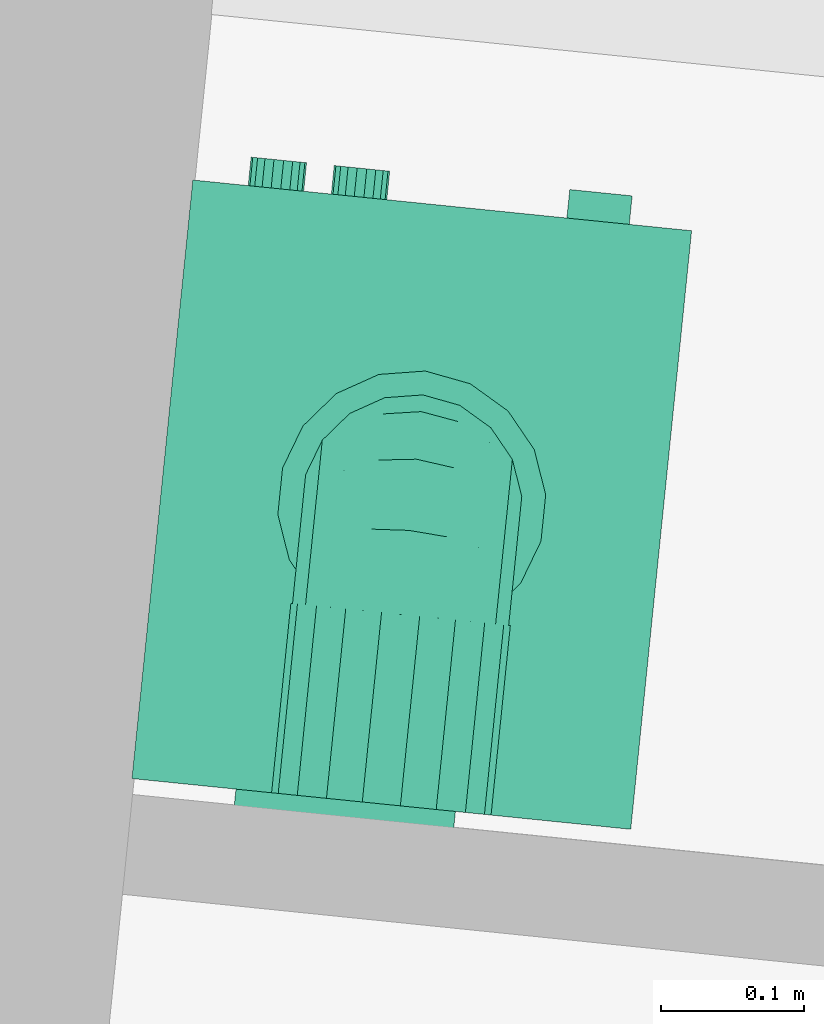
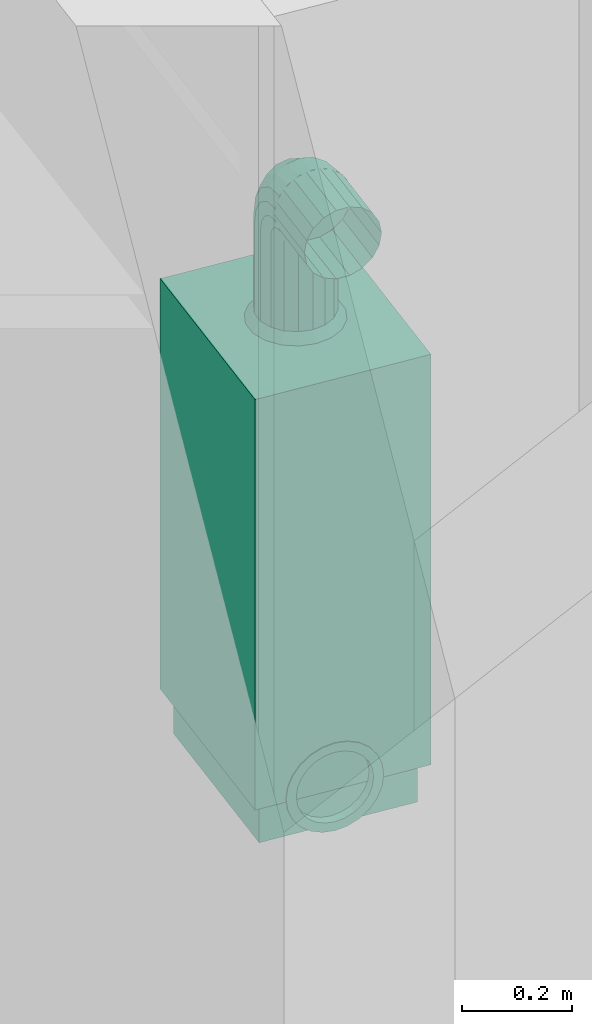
# One storey, part 114 of 164: 1 distribution element.
"""IFC2X3 building model written with IfcOpenShell, lengths in millimetres."""

from ifc_helpers import new_model, entity, si_unit, converted_unit, derived_unit, money_unit, direction, frame, origin_with_axes, place, context, subcontext, project, spatial, open_shell, faceted_brep, surface_model, source, transform, mapped, type_object, element, save


model = new_model("IFC2X3")

# Units and contexts
model_context = context("Model", 3, precision=0.01, world=origin_with_axes(), true_north=direction((0.0, 1.0)))
body_context = subcontext(model_context, "Body", "Model", "MODEL_VIEW")
ifc_project = project(units=[si_unit("LENGTHUNIT", "METRE", prefix="MILLI"), si_unit("AREAUNIT", "SQUARE_METRE"), si_unit("VOLUMEUNIT", "CUBIC_METRE"), converted_unit("PLANEANGLEUNIT", "DEGREE", entity("IfcPlaneAngleMeasure", 0.0174532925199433), si_unit("PLANEANGLEUNIT", "RADIAN"), dimensions=[0, 0, 0, 0, 0, 0, 0]), money_unit("USD"), converted_unit("TIMEUNIT", "Year", entity("IfcTimeMeasure", 31557600.0), si_unit("TIMEUNIT", "SECOND"), dimensions=[0, 0, 1, 0, 0, 0, 0]), si_unit("MASSUNIT", "GRAM", prefix="KILO"), si_unit("THERMODYNAMICTEMPERATUREUNIT", "DEGREE_CELSIUS"), si_unit("LUMINOUSINTENSITYUNIT", "LUMEN"), si_unit("ENERGYUNIT", "JOULE", prefix="MEGA"), derived_unit("THERMALCONDUCTANCEUNIT", [(si_unit("POWERUNIT", "WATT"), 1), (si_unit("LENGTHUNIT", "METRE"), -1), (si_unit("THERMODYNAMICTEMPERATUREUNIT", "KELVIN"), -1)]), derived_unit("SPECIFICHEATCAPACITYUNIT", [(si_unit("ENERGYUNIT", "JOULE"), 1), (si_unit("MASSUNIT", "GRAM", prefix="KILO"), -1), (si_unit("THERMODYNAMICTEMPERATUREUNIT", "KELVIN"), -1)]), derived_unit("MASSDENSITYUNIT", [(si_unit("MASSUNIT", "GRAM", prefix="KILO"), 1), (si_unit("VOLUMEUNIT", "CUBIC_METRE"), -1)])], contexts=[model_context])

# Site, building, storey
site_placement = place(None, origin_with_axes())
site = spatial("IfcSite", under=ifc_project, at=site_placement, Name="Site", CompositionType="ELEMENT")
building_placement = place(site_placement, origin_with_axes())
building = spatial("IfcBuilding", under=site, at=building_placement, Name="Bâtiment", CompositionType="ELEMENT")
storey_placement = place(building_placement, frame((0.0, 0.0, 5750.0), z_axis=(0.0, 0.0, 1.0), x_axis=(1.0, 0.0, 0.0)))
storey = spatial("IfcBuildingStorey", under=building, at=storey_placement, Name="Etage1", CompositionType="ELEMENT", Elevation=5750.0)

# Distribution element
distribution_element_type = type_object("IfcDistributionElementType", Name="Chaudière à gaz 27")
shared_shape = source(origin_with_axes(), body_context, "Body", "SurfaceModel", [
    surface_model("IfcShellBasedSurfaceModel", [(200.0, 420.0, 34.90909090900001), (180.0709335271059, 420.0, 37.53280228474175), (180.0709335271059, 438.0, 37.53280228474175), (200.0, 438.0, 34.90909090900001), (161.5, 420.0, 45.22513481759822), (161.5, 438.0, 45.22513481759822), (219.9290664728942, 420.0, 37.53280228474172), (219.9290664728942, 438.0, 37.53280228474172), (145.5527778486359, 420.0, 57.46186875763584), (145.5527778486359, 438.0, 57.46186875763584), (238.5000000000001, 420.0, 45.22513481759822), (238.5000000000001, 438.0, 45.22513481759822), (133.3160439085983, 420.0, 73.409090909), (133.3160439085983, 438.0, 73.409090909), (254.4472221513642, 420.0, 57.46186875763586), (254.4472221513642, 438.0, 57.46186875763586), (125.6237113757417, 420.0, 91.9800244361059), (125.6237113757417, 438.0, 91.9800244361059), (266.6839560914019, 420.0, 73.40909090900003), (266.6839560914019, 438.0, 73.40909090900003), (123.0, 420.0, 111.909090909), (123.0, 438.0, 111.909090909), (274.3762886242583, 420.0, 91.98002443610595), (274.3762886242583, 438.0, 91.98002443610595), (125.6237113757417, 420.0, 131.8381573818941), (125.6237113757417, 438.0, 131.8381573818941), (277.0, 420.0, 111.909090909), (277.0, 438.0, 111.909090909), (133.3160439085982, 420.0, 150.409090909), (133.3160439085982, 438.0, 150.409090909), (274.3762886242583, 420.0, 131.8381573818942), (274.3762886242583, 438.0, 131.8381573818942), (145.5527778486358, 420.0, 166.3563130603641), (145.5527778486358, 438.0, 166.3563130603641), (266.6839560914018, 420.0, 150.4090909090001), (266.6839560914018, 438.0, 150.4090909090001), (161.5, 420.0, 178.5930470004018), (161.5, 438.0, 178.5930470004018), (254.4472221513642, 420.0, 166.3563130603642), (254.4472221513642, 438.0, 166.3563130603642), (180.0709335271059, 420.0, 186.2853795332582), (180.0709335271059, 438.0, 186.2853795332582), (238.5, 420.0, 178.5930470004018), (238.5, 438.0, 178.5930470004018), (200.0, 420.0, 188.909090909), (200.0, 438.0, 188.909090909), (219.929066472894, 420.0, 186.2853795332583), (219.929066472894, 438.0, 186.2853795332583)], [open_shell([[[0, 1, 2, 3]], [[1, 4, 5, 2]], [[6, 0, 3, 7]], [[4, 8, 9, 5]], [[10, 6, 7, 11]], [[8, 12, 13, 9]], [[14, 10, 11, 15]], [[12, 16, 17, 13]], [[18, 14, 15, 19]], [[16, 20, 21, 17]], [[22, 18, 19, 23]], [[20, 24, 25, 21]], [[26, 22, 23, 27]], [[24, 28, 29, 25]], [[30, 26, 27, 31]], [[28, 32, 33, 29]], [[34, 30, 31, 35]], [[32, 36, 37, 33]], [[38, 34, 35, 39]], [[36, 40, 41, 37]], [[42, 38, 39, 43]], [[40, 44, 45, 41]], [[46, 42, 43, 47]], [[44, 46, 47, 45]]])]),
    faceted_brep([(200.0, 438.0, 14.909090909), (174.8945526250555, 438.0, 18.21428575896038), (174.8945526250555, 440.0, 18.21428575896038), (200.0, 440.0, 14.909090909), (225.1054473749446, 438.0, 18.21428575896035), (248.5000000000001, 438.0, 27.90462674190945), (268.5893577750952, 438.0, 43.31973313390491), (284.0044641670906, 438.0, 63.40909090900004), (293.6948051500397, 438.0, 86.80364353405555), (297.0000000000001, 438.0, 111.909090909), (293.6948051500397, 438.0, 137.0145382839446), (284.0044641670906, 438.0, 160.4090909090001), (268.5893577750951, 438.0, 180.4984486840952), (248.5, 438.0, 195.9135550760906), (225.1054473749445, 438.0, 205.6038960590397), (199.9999999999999, 438.0, 208.909090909), (174.8945526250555, 438.0, 205.6038960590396), (151.5, 438.0, 195.9135550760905), (131.4106422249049, 438.0, 180.4984486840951), (115.9955358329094, 438.0, 160.409090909), (106.3051948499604, 438.0, 137.0145382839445), (103.0, 438.0, 111.909090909), (106.3051948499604, 438.0, 86.80364353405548), (115.9955358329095, 438.0, 63.40909090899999), (131.4106422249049, 438.0, 43.31973313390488), (151.5, 438.0, 27.90462674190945), (200.0, 438.0, 34.90909090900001), (180.0709335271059, 438.0, 37.53280228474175), (161.5, 438.0, 45.22513481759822), (145.5527778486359, 438.0, 57.46186875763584), (133.3160439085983, 438.0, 73.409090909), (125.6237113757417, 438.0, 91.9800244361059), (123.0, 438.0, 111.909090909), (125.6237113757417, 438.0, 131.8381573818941), (133.3160439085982, 438.0, 150.409090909), (145.5527778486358, 438.0, 166.3563130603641), (161.5, 438.0, 178.5930470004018), (180.0709335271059, 438.0, 186.2853795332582), (200.0, 438.0, 188.909090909), (219.929066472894, 438.0, 186.2853795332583), (238.5, 438.0, 178.5930470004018), (254.4472221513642, 438.0, 166.3563130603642), (266.6839560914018, 438.0, 150.4090909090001), (274.3762886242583, 438.0, 131.8381573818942), (277.0, 438.0, 111.909090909), (274.3762886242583, 438.0, 91.98002443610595), (266.6839560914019, 438.0, 73.40909090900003), (254.4472221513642, 438.0, 57.46186875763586), (238.5000000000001, 438.0, 45.22513481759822), (219.9290664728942, 438.0, 37.53280228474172), (151.5, 440.0, 27.90462674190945), (131.4106422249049, 440.0, 43.31973313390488), (115.9955358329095, 440.0, 63.40909090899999), (106.3051948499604, 440.0, 86.80364353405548), (103.0, 440.0, 111.909090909), (106.3051948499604, 440.0, 137.0145382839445), (115.9955358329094, 440.0, 160.409090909), (131.4106422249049, 440.0, 180.4984486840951), (151.5, 440.0, 195.9135550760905), (174.8945526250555, 440.0, 205.6038960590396), (199.9999999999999, 440.0, 208.909090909), (225.1054473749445, 440.0, 205.6038960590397), (248.5, 440.0, 195.9135550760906), (268.5893577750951, 440.0, 180.4984486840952), (284.0044641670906, 440.0, 160.4090909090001), (293.6948051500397, 440.0, 137.0145382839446), (297.0000000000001, 440.0, 111.909090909), (293.6948051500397, 440.0, 86.80364353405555), (284.0044641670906, 440.0, 63.40909090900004), (268.5893577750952, 440.0, 43.31973313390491), (248.5000000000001, 440.0, 27.90462674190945), (225.1054473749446, 440.0, 18.21428575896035), (200.0, 440.0, 34.90909090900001), (219.9290664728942, 440.0, 37.53280228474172), (238.5000000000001, 440.0, 45.22513481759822), (254.4472221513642, 440.0, 57.46186875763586), (266.6839560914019, 440.0, 73.40909090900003), (274.3762886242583, 440.0, 91.98002443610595), (277.0, 440.0, 111.909090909), (274.3762886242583, 440.0, 131.8381573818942), (266.6839560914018, 440.0, 150.4090909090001), (254.4472221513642, 440.0, 166.3563130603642), (238.5, 440.0, 178.5930470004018), (219.929066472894, 440.0, 186.2853795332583), (200.0, 440.0, 188.909090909), (180.0709335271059, 440.0, 186.2853795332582), (161.5, 440.0, 178.5930470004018), (145.5527778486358, 440.0, 166.3563130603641), (133.3160439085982, 440.0, 150.409090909), (125.6237113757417, 440.0, 131.8381573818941), (123.0, 440.0, 111.909090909), (125.6237113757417, 440.0, 91.9800244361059), (133.3160439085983, 440.0, 73.409090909), (145.5527778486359, 440.0, 57.46186875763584), (161.5, 440.0, 45.22513481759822), (180.0709335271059, 440.0, 37.53280228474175)], [[[0, 1, 2, 3]], [[0, 4, 5, 6, 7, 8, 9, 10, 11, 12, 13, 14, 15, 16, 17, 18, 19, 20, 21, 22, 23, 24, 25, 1], [26, 27, 28, 29, 30, 31, 32, 33, 34, 35, 36, 37, 38, 39, 40, 41, 42, 43, 44, 45, 46, 47, 48, 49]], [[1, 25, 50, 2]], [[3, 2, 50, 51, 52, 53, 54, 55, 56, 57, 58, 59, 60, 61, 62, 63, 64, 65, 66, 67, 68, 69, 70, 71], [72, 73, 74, 75, 76, 77, 78, 79, 80, 81, 82, 83, 84, 85, 86, 87, 88, 89, 90, 91, 92, 93, 94, 95]], [[4, 0, 3, 71]], [[5, 4, 71, 70]], [[6, 5, 70, 69]], [[7, 6, 69, 68]], [[8, 7, 68, 67]], [[9, 8, 67, 66]], [[10, 9, 66, 65]], [[11, 10, 65, 64]], [[12, 11, 64, 63]], [[13, 12, 63, 62]], [[14, 13, 62, 61]], [[15, 14, 61, 60]], [[16, 15, 60, 59]], [[17, 16, 59, 58]], [[18, 17, 58, 57]], [[19, 18, 57, 56]], [[20, 19, 56, 55]], [[21, 20, 55, 54]], [[22, 21, 54, 53]], [[23, 22, 53, 52]], [[24, 23, 52, 51]], [[25, 24, 51, 50]], [[27, 26, 72, 95]], [[28, 27, 95, 94]], [[29, 28, 94, 93]], [[30, 29, 93, 92]], [[31, 30, 92, 91]], [[32, 31, 91, 90]], [[33, 32, 90, 89]], [[34, 33, 89, 88]], [[35, 34, 88, 87]], [[36, 35, 87, 86]], [[37, 36, 86, 85]], [[38, 37, 85, 84]], [[39, 38, 84, 83]], [[40, 39, 83, 82]], [[41, 40, 82, 81]], [[42, 41, 81, 80]], [[43, 42, 80, 79]], [[44, 43, 79, 78]], [[45, 44, 78, 77]], [[46, 45, 77, 76]], [[47, 46, 76, 75]], [[48, 47, 75, 74]], [[49, 48, 74, 73]], [[26, 49, 73, 72]]]),
    faceted_brep([(332.5, 21.0, 0.0), (17.5, 21.0, 0.0), (17.5, 399.0, 0.0), (332.5, 399.0, 0.0), (332.5, 21.0, 90.9090909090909), (17.5, 21.0, 90.9090909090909), (17.5, 399.0, 90.9090909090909), (332.5, 399.0, 90.9090909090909)], [[[0, 1, 2, 3]], [[1, 0, 4, 5]], [[2, 1, 5, 6]], [[3, 2, 6, 7]], [[0, 3, 7, 4]], [[5, 4, 7, 6]]]),
    faceted_brep([(0.0, 420.0, 90.9090909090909), (0.0, 420.0, 1000.0), (349.9999999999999, 420.0, 1000.0), (350.0, 420.0, 90.90909090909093), (0.0, 0.0, 90.9090909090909), (0.0, 0.0, 818.1818181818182), (0.0, 21.0, 818.1818181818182), (0.0, 21.0, 1000.0), (349.9999999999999, 21.0, 1000.0), (349.9999999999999, 21.0, 818.1818181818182), (349.9999999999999, 0.0, 818.1818181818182), (350.0, 0.0, 90.90909090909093)], [[[0, 1, 2, 3]], [[0, 4, 5, 6, 7, 1]], [[1, 7, 8, 2]], [[3, 2, 8, 9, 10, 11]], [[4, 0, 3, 11]], [[5, 4, 11, 10]], [[6, 5, 10, 9]], [[7, 6, 9, 8]]]),
    faceted_brep([(350.0, 0.0, 818.1818181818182), (0.0, 0.0, 818.1818181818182), (0.0, 21.0, 818.1818181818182), (350.0, 21.0, 818.1818181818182), (350.0, 0.0, 1000.0), (0.0, 0.0, 1000.0), (0.0, 21.0, 1000.0), (350.0, 21.0, 1000.0)], [[[0, 1, 2, 3]], [[1, 0, 4, 5]], [[2, 1, 5, 6]], [[3, 2, 6, 7]], [[0, 3, 7, 4]], [[5, 4, 7, 6]]]),
    faceted_brep([(251.6051342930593, 0.0, 902.4405174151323), (248.2286419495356, 0.0, 896.592261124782), (243.0555555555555, 0.0, 892.2515262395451), (236.709825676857, 0.0, 889.9418694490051), (229.9568409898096, 0.0, 889.9418694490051), (223.6111111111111, 0.0, 892.2515262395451), (218.438024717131, 0.0, 896.5922611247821), (215.0615323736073, 0.0, 902.4405174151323), (213.8888888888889, 0.0, 909.0909090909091), (215.0615323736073, 0.0, 915.741300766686), (218.438024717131, 0.0, 921.5895570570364), (223.6111111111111, 0.0, 925.9302919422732), (229.9568409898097, 0.0, 928.2399487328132), (236.709825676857, 0.0, 928.2399487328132), (243.0555555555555, 0.0, 925.9302919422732), (248.2286419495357, 0.0, 921.5895570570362), (251.6051342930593, 0.0, 915.741300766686), (252.7777777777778, 0.0, 909.0909090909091), (251.6051342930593, -19.99999999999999, 902.4405174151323), (248.2286419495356, -19.99999999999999, 896.592261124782), (243.0555555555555, -19.99999999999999, 892.2515262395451), (236.709825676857, -19.99999999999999, 889.9418694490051), (229.9568409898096, -19.99999999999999, 889.9418694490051), (223.6111111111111, -19.99999999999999, 892.2515262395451), (218.438024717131, -19.99999999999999, 896.5922611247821), (215.0615323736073, -19.99999999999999, 902.4405174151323), (213.8888888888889, -19.99999999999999, 909.0909090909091), (215.0615323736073, -19.99999999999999, 915.741300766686), (218.438024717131, -19.99999999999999, 921.5895570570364), (223.6111111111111, -19.99999999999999, 925.9302919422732), (229.9568409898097, -19.99999999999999, 928.2399487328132), (236.709825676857, -19.99999999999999, 928.2399487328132), (243.0555555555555, -19.99999999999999, 925.9302919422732), (248.2286419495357, -19.99999999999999, 921.5895570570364), (251.6051342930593, -19.99999999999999, 915.741300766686), (252.7777777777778, -19.99999999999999, 909.0909090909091)], [[[0, 1, 2, 3, 4, 5, 6, 7, 8, 9, 10, 11, 12, 13, 14, 15, 16, 17]], [[1, 0, 18, 19]], [[2, 1, 19, 20]], [[3, 2, 20, 21]], [[4, 3, 21, 22]], [[5, 4, 22, 23]], [[6, 5, 23, 24]], [[7, 6, 24, 25]], [[8, 7, 25, 26]], [[9, 8, 26, 27]], [[10, 9, 27, 28]], [[11, 10, 28, 29]], [[12, 11, 29, 30]], [[13, 12, 30, 31]], [[14, 13, 31, 32]], [[15, 14, 32, 33]], [[16, 15, 33, 34]], [[17, 16, 34, 35]], [[0, 17, 35, 18]], [[18, 35, 34, 33, 32, 31, 30, 29, 28, 27, 26, 25, 24, 23, 22, 21, 20, 19]]]),
    faceted_brep([(309.9384676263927, 0.0, 902.4405174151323), (306.561975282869, 0.0, 896.592261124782), (301.3888888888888, 0.0, 892.2515262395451), (295.0431590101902, 0.0, 889.9418694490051), (288.290174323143, 0.0, 889.9418694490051), (281.9444444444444, 0.0, 892.2515262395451), (276.7713580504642, 0.0, 896.5922611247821), (273.3948657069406, 0.0, 902.4405174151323), (272.2222222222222, 0.0, 909.0909090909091), (273.3948657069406, 0.0, 915.741300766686), (276.7713580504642, 0.0, 921.5895570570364), (281.9444444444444, 0.0, 925.9302919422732), (288.290174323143, 0.0, 928.2399487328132), (295.0431590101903, 0.0, 928.2399487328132), (301.3888888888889, 0.0, 925.9302919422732), (306.561975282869, 0.0, 921.5895570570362), (309.9384676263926, 0.0, 915.741300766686), (311.1111111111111, 0.0, 909.0909090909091), (309.9384676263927, -19.99999999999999, 902.4405174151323), (306.561975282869, -19.99999999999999, 896.592261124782), (301.3888888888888, -19.99999999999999, 892.2515262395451), (295.0431590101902, -19.99999999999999, 889.9418694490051), (288.290174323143, -19.99999999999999, 889.9418694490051), (281.9444444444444, -19.99999999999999, 892.2515262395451), (276.7713580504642, -19.99999999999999, 896.5922611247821), (273.3948657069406, -19.99999999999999, 902.4405174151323), (272.2222222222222, -19.99999999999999, 909.0909090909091), (273.3948657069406, -19.99999999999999, 915.741300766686), (276.7713580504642, -19.99999999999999, 921.5895570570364), (281.9444444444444, -19.99999999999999, 925.9302919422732), (288.290174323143, -19.99999999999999, 928.2399487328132), (295.0431590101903, -19.99999999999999, 928.2399487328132), (301.3888888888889, -19.99999999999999, 925.9302919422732), (306.561975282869, -19.99999999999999, 921.5895570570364), (309.9384676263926, -19.99999999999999, 915.741300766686), (311.1111111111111, -19.99999999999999, 909.0909090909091)], [[[0, 1, 2, 3, 4, 5, 6, 7, 8, 9, 10, 11, 12, 13, 14, 15, 16, 17]], [[1, 0, 18, 19]], [[2, 1, 19, 20]], [[3, 2, 20, 21]], [[4, 3, 21, 22]], [[5, 4, 22, 23]], [[6, 5, 23, 24]], [[7, 6, 24, 25]], [[8, 7, 25, 26]], [[9, 8, 26, 27]], [[10, 9, 27, 28]], [[11, 10, 28, 29]], [[12, 11, 29, 30]], [[13, 12, 30, 31]], [[14, 13, 31, 32]], [[15, 14, 32, 33]], [[16, 15, 33, 34]], [[17, 16, 34, 35]], [[0, 17, 35, 18]], [[18, 35, 34, 33, 32, 31, 30, 29, 28, 27, 26, 25, 24, 23, 22, 21, 20, 19]]]),
    faceted_brep([(87.5, 0.0, 878.7878787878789), (43.75, 0.0, 878.7878787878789), (43.75, 0.0, 939.3939393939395), (87.5, 0.0, 939.3939393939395), (87.5, -20.0, 878.7878787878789), (43.75, -20.0, 878.7878787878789), (43.75, -19.99999999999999, 939.3939393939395), (87.5, -19.99999999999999, 939.3939393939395)], [[[0, 1, 2, 3]], [[1, 0, 4, 5]], [[2, 1, 5, 6]], [[3, 2, 6, 7]], [[0, 3, 7, 4]], [[5, 4, 7, 6]]]),
    surface_model("IfcShellBasedSurfaceModel", [(148.6644489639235, 282.356331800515, 1220.0), (175.0, 287.0, 1220.0), (175.0, 287.0, 1020.0), (148.6644489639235, 282.356331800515, 1020.0), (201.3355510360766, 282.356331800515, 1220.0), (201.3355510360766, 282.356331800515, 1020.0), (175.0, 303.7499999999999, 1000.0), (142.9356115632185, 298.0961831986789, 1000.0), (125.5053540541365, 268.9854221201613, 1220.0), (125.5053540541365, 268.9854221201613, 1020.0), (224.4946459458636, 268.9854221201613, 1220.0), (224.4946459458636, 268.9854221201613, 1020.0), (207.0643884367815, 298.0961831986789, 1000.0), (114.7386615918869, 281.8166665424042, 1000.0), (108.3160439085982, 248.5, 1220.0), (108.3160439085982, 248.5, 1020.0), (241.6839560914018, 248.4999999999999, 1220.0), (241.6839560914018, 248.4999999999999, 1020.0), (235.2613384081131, 281.8166665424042, 1000.0), (93.81011839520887, 256.8749999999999, 1000.0), (99.16980301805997, 223.3709096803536, 1220.0), (99.16980301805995, 223.3709096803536, 1020.0), (250.8301969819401, 223.3709096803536, 1220.0), (250.83019698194, 223.3709096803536, 1020.0), (256.1898816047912, 256.8749999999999, 1000.0), (82.6742731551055, 226.2795166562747, 1000.0), (99.16980301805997, 196.6290903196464, 1220.0), (99.16980301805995, 196.6290903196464, 1020.0), (250.83019698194, 196.6290903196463, 1220.0), (250.83019698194, 196.6290903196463, 1020.0), (267.3257268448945, 226.2795166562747, 1000.0), (82.67427315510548, 193.7204833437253, 1000.0), (108.3160439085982, 171.5, 1220.0), (108.3160439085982, 171.5, 1020.0), (241.6839560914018, 171.4999999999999, 1220.0), (241.6839560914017, 171.4999999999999, 1020.0), (267.3257268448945, 193.7204833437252, 1000.0), (93.81011839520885, 163.125, 1000.0), (125.5053540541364, 151.0145778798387, 1220.0), (125.5053540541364, 151.0145778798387, 1020.0), (224.4946459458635, 151.0145778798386, 1220.0), (224.4946459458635, 151.0145778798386, 1020.0), (256.1898816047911, 163.1249999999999, 1000.0), (114.7386615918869, 138.1833334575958, 1000.0), (148.6644489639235, 137.643668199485, 1220.0), (148.6644489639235, 137.643668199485, 1020.0), (201.3355510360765, 137.643668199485, 1220.0), (201.3355510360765, 137.643668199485, 1020.0), (235.261338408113, 138.1833334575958, 1000.0), (142.9356115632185, 121.9038168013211, 1000.0), (175.0, 133.0, 1220.0), (175.0, 133.0, 1020.0), (207.0643884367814, 121.9038168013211, 1000.0), (175.0, 116.25, 1000.0)], [open_shell([[[0, 1, 2, 3]], [[1, 4, 5, 2]], [[3, 2, 6, 7]], [[8, 0, 3, 9]], [[4, 10, 11, 5]], [[2, 5, 12, 6]], [[9, 3, 7, 13]], [[14, 8, 9, 15]], [[10, 16, 17, 11]], [[5, 11, 18, 12]], [[15, 9, 13, 19]], [[20, 14, 15, 21]], [[16, 22, 23, 17]], [[11, 17, 24, 18]], [[21, 15, 19, 25]], [[26, 20, 21, 27]], [[22, 28, 29, 23]], [[17, 23, 30, 24]], [[27, 21, 25, 31]], [[32, 26, 27, 33]], [[28, 34, 35, 29]], [[23, 29, 36, 30]], [[33, 27, 31, 37]], [[38, 32, 33, 39]], [[34, 40, 41, 35]], [[29, 35, 42, 36]], [[39, 33, 37, 43]], [[44, 38, 39, 45]], [[40, 46, 47, 41]], [[35, 41, 48, 42]], [[45, 39, 43, 49]], [[50, 44, 45, 51]], [[46, 50, 51, 47]], [[41, 47, 52, 48]], [[51, 45, 49, 53]], [[47, 51, 53, 52]]])]),
    faceted_brep([(99.16980301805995, 203.5081662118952, 1254.583449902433), (99.16980301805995, 196.6290903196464, 1220.0), (108.3160439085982, 171.5, 1220.0), (108.3160439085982, 180.2919139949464, 1264.199936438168), (99.16980301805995, 228.2143857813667, 1244.349798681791), (99.16980301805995, 223.3709096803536, 1220.0), (108.3160439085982, 248.5, 1220.0), (125.5053540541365, 268.9854221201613, 1220.0), (148.6644489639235, 282.356331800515, 1220.0), (175.0, 287.0, 1220.0), (201.3355510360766, 282.356331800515, 1220.0), (224.4946459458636, 268.9854221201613, 1220.0), (241.6839560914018, 248.4999999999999, 1220.0), (250.83019698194, 223.3709096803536, 1220.0), (250.83019698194, 196.6290903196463, 1220.0), (241.6839560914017, 171.4999999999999, 1220.0), (224.4946459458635, 151.0145778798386, 1220.0), (201.3355510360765, 137.643668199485, 1220.0), (175.0, 132.9999999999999, 1220.0), (148.6644489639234, 137.643668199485, 1220.0), (125.5053540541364, 151.0145778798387, 1220.0), (125.5053540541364, 161.3658517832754, 1272.039368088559), (99.16980301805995, 223.098116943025, 1283.901883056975), (108.3160439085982, 205.3291667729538, 1301.670833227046), (99.16980301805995, 242.0074387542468, 1264.992561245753), (108.3160439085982, 251.4306379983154, 1234.733312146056), (125.5053540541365, 270.3567002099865, 1226.893880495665), (148.6644489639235, 282.7098099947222, 1221.777054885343), (201.3355510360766, 282.7098099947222, 1221.777054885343), (224.4946459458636, 270.3567002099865, 1226.893880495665), (241.6839560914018, 251.4306379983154, 1234.733312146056), (250.83019698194, 228.2143857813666, 1244.349798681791), (250.83019698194, 203.5081662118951, 1254.583449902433), (241.6839560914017, 180.2919139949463, 1264.199936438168), (224.4946459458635, 161.3658517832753, 1272.039368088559), (201.3355510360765, 149.0127419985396, 1277.15619369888), (175.0, 144.7225519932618, 1278.933248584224), (148.6644489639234, 149.0127419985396, 1277.15619369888), (125.5053540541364, 190.8437858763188, 1316.156214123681), (108.3160439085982, 242.8000635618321, 1326.708086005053), (99.16980301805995, 252.4165500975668, 1303.491833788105), (99.16980301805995, 262.6502013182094, 1278.785614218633), (108.3160439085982, 259.7763889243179, 1247.223611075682), (125.5053540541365, 274.2617698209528, 1232.738230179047), (148.6644489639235, 283.7164307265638, 1223.283569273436), (201.3355510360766, 283.7164307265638, 1223.283569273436), (224.4946459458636, 274.2617698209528, 1232.738230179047), (241.6839560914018, 259.7763889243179, 1247.223611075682), (250.83019698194, 242.0074387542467, 1264.992561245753), (250.83019698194, 223.0981169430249, 1283.901883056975), (241.6839560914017, 205.3291667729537, 1301.670833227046), (224.4946459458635, 190.8437858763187, 1316.156214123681), (201.3355510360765, 181.3891249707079, 1325.610875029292), (175.0, 178.1055556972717, 1328.894444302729), (148.6644489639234, 181.3891249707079, 1325.610875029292), (125.5053540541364, 234.9606319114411, 1345.634148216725), (108.3160439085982, 287.0000000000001, 1335.5), (99.16980301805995, 287.0000000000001, 1310.370909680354), (99.16980301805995, 287.0000000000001, 1283.629090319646), (108.3160439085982, 272.266687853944, 1255.569362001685), (125.5053540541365, 280.1061195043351, 1236.643299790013), (148.6644489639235, 285.2229451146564, 1224.290190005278), (201.3355510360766, 285.2229451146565, 1224.290190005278), (224.4946459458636, 280.1061195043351, 1236.643299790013), (241.6839560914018, 272.266687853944, 1255.569362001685), (250.83019698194, 262.6502013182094, 1278.785614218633), (250.83019698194, 252.4165500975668, 1303.491833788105), (241.6839560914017, 242.8000635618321, 1326.708086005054), (224.4946459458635, 234.9606319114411, 1345.634148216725), (201.3355510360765, 229.8438063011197, 1357.98725800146), (175.0, 228.0667514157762, 1362.277448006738), (148.6644489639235, 229.8438063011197, 1357.98725800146), (125.5053540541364, 287.0000000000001, 1355.985422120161), (108.3160439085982, 287.0, 1258.5), (148.6644489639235, 287.0000000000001, 1369.356331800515), (175.0, 287.0000000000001, 1374.0), (201.3355510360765, 287.0000000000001, 1369.356331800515), (224.4946459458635, 287.0000000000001, 1355.985422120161), (241.6839560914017, 287.0000000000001, 1335.5), (250.83019698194, 287.0000000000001, 1310.370909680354), (250.83019698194, 287.0000000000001, 1283.629090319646), (241.6839560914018, 287.0, 1258.5), (224.4946459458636, 287.0, 1238.014577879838), (201.3355510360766, 287.0, 1224.643668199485), (148.6644489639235, 287.0, 1224.643668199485), (125.5053540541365, 287.0, 1238.014577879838)], [[[0, 1, 2, 3]], [[1, 0, 4, 5]], [[2, 1, 5, 6, 7, 8, 9, 10, 11, 12, 13, 14, 15, 16, 17, 18, 19, 20]], [[3, 2, 20, 21]], [[22, 0, 3, 23]], [[0, 22, 24, 4]], [[6, 5, 4, 25]], [[26, 7, 6, 25]], [[7, 26, 27, 8]], [[8, 27, 9]], [[28, 10, 9]], [[10, 28, 29, 11]], [[11, 29, 30, 12]], [[31, 13, 12, 30]], [[14, 13, 31, 32]], [[33, 15, 14, 32]], [[15, 33, 34, 16]], [[35, 17, 16, 34]], [[36, 18, 17, 35]], [[19, 18, 36, 37]], [[21, 20, 19, 37]], [[23, 3, 21, 38]], [[22, 23, 39, 40]], [[24, 22, 40, 41]], [[4, 24, 42, 25]], [[43, 26, 25, 42]], [[26, 43, 44, 27]], [[27, 44, 9]], [[45, 28, 9]], [[28, 45, 46, 29]], [[29, 46, 47, 30]], [[31, 30, 47, 48]], [[49, 32, 31, 48]], [[32, 49, 50, 33]], [[51, 34, 33, 50]], [[35, 34, 51, 52]], [[53, 36, 35, 52]], [[54, 37, 36, 53]], [[38, 21, 37, 54]], [[39, 23, 38, 55]], [[40, 39, 56, 57]], [[41, 40, 57, 58]], [[59, 42, 24, 41]], [[42, 59, 60, 43]], [[43, 60, 61, 44]], [[44, 61, 9]], [[62, 45, 9]], [[45, 62, 63, 46]], [[46, 63, 64, 47]], [[65, 48, 47, 64]], [[66, 49, 48, 65]], [[50, 49, 66, 67]], [[68, 51, 50, 67]], [[52, 51, 68, 69]], [[53, 52, 69, 70]], [[71, 54, 53, 70]], [[55, 38, 54, 71]], [[56, 39, 55, 72]], [[73, 58, 57, 56, 72, 74, 75, 76, 77, 78, 79, 80, 81, 82, 83, 9, 84, 85]], [[59, 41, 58, 73]], [[59, 73, 85, 60]], [[60, 85, 84, 61]], [[61, 84, 9]], [[62, 9, 83]], [[63, 62, 83, 82]], [[63, 82, 81, 64]], [[65, 64, 81, 80]], [[66, 65, 80, 79]], [[67, 66, 79, 78]], [[77, 68, 67, 78]], [[68, 77, 76, 69]], [[70, 69, 76, 75]], [[74, 71, 70, 75]], [[72, 55, 71, 74]]]),
    surface_model("IfcShellBasedSurfaceModel", [(102.6436681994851, 420.0, 1323.335551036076), (98.0, 420.0, 1297.0), (97.99999999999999, 287.0, 1297.0), (102.643668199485, 287.0, 1323.335551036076), (102.643668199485, 420.0, 1270.664448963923), (102.643668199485, 287.0, 1270.664448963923), (116.0145778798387, 420.0, 1346.494645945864), (116.0145778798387, 287.0, 1346.494645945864), (116.0145778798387, 420.0, 1247.505354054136), (116.0145778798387, 287.0, 1247.505354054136), (136.5, 420.0, 1363.683956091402), (136.5, 287.0, 1363.683956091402), (136.5, 420.0, 1230.316043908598), (136.5, 287.0, 1230.316043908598), (161.6290903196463, 420.0, 1372.83019698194), (161.6290903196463, 287.0, 1372.83019698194), (161.6290903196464, 420.0, 1221.16980301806), (161.6290903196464, 287.0, 1221.16980301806), (188.3709096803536, 420.0, 1372.83019698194), (188.3709096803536, 287.0, 1372.83019698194), (188.3709096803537, 420.0, 1221.16980301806), (188.3709096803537, 287.0, 1221.16980301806), (213.5, 420.0, 1363.683956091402), (213.5, 287.0, 1363.683956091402), (213.5000000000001, 420.0, 1230.316043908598), (213.5, 287.0, 1230.316043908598), (233.9854221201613, 420.0, 1346.494645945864), (233.9854221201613, 287.0, 1346.494645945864), (233.9854221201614, 420.0, 1247.505354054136), (233.9854221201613, 287.0, 1247.505354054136), (247.356331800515, 420.0, 1323.335551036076), (247.3563318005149, 287.0, 1323.335551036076), (247.356331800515, 420.0, 1270.664448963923), (247.356331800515, 287.0, 1270.664448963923), (252.0, 420.0, 1297.0), (252.0, 287.0, 1297.0)], [open_shell([[[0, 1, 2, 3]], [[1, 4, 5, 2]], [[6, 0, 3, 7]], [[4, 8, 9, 5]], [[10, 6, 7, 11]], [[8, 12, 13, 9]], [[14, 10, 11, 15]], [[12, 16, 17, 13]], [[18, 14, 15, 19]], [[16, 20, 21, 17]], [[22, 18, 19, 23]], [[20, 24, 25, 21]], [[26, 22, 23, 27]], [[24, 28, 29, 25]], [[30, 26, 27, 31]], [[28, 32, 33, 29]], [[34, 30, 31, 35]], [[32, 34, 35, 33]]])]),
])
distribution_element_placement = place(storey_placement, frame((2226373.356339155, -611246.7260393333, 799.9999999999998), z_axis=(0.0, 0.0, 1.0), x_axis=(-0.9948673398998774, 0.1011878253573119, 0.0)))
element("IfcDistributionElement", 1, at=distribution_element_placement, inside=storey, type_object=distribution_element_type, Name="Obj.-003", context=body_context, shape_type="MappedRepresentation", body=[
    mapped(shared_shape, transform((0.0, 0.0, 0.0))),
])

save(model, "model.ifc")
